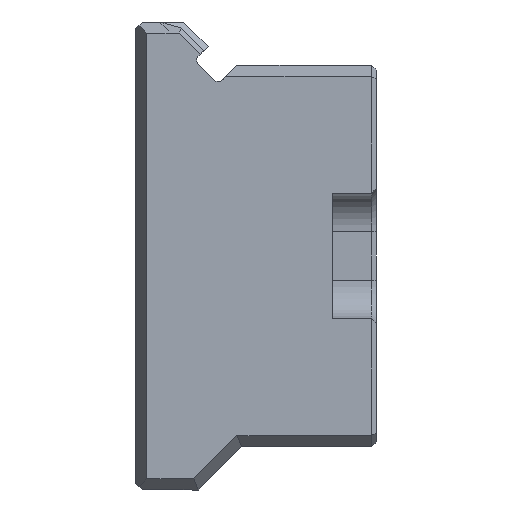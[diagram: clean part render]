
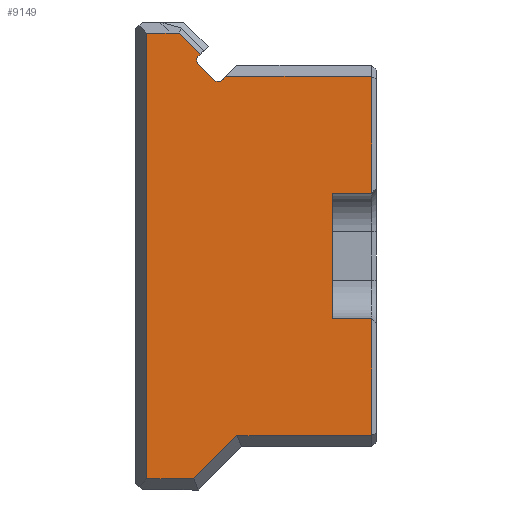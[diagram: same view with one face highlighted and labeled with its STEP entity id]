
A CAD part, left-side view. The second image highlights one B-rep face of the part: STEP entity #9149.
In plain terms, the highlighted planar face has unit normal (-1, 0, 0).
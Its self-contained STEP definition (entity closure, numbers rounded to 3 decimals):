
#27 = CARTESIAN_POINT ( 'NONE',  ( -192., 16.409, 17.891 ) ) ;
#75 = VECTOR ( 'NONE', #664, 1000. ) ;
#410 = DIRECTION ( 'NONE',  ( 1., 0., 0. ) ) ;
#581 = CARTESIAN_POINT ( 'NONE',  ( -192., 15.655, 18.645 ) ) ;
#601 = EDGE_CURVE ( 'NONE', #45520, #14330, #21615, .T. ) ;
#661 = EDGE_CURVE ( 'NONE', #35217, #16375, #41004, .T. ) ;
#664 = DIRECTION ( 'NONE',  ( 0., -1., 0. ) ) ;
#690 = EDGE_CURVE ( 'NONE', #6632, #30408, #7452, .T. ) ;
#1754 = CARTESIAN_POINT ( 'NONE',  ( -192., 4.6, 6.5 ) ) ;
#2011 = CARTESIAN_POINT ( 'NONE',  ( -192., 18.5, -23.145 ) ) ;
#2361 = CARTESIAN_POINT ( 'NONE',  ( -192., 18.291, 20.958 ) ) ;
#2510 = VECTOR ( 'NONE', #12486, 1000. ) ;
#3057 = CARTESIAN_POINT ( 'NONE',  ( -192., 23.845, -23.145 ) ) ;
#3446 = VECTOR ( 'NONE', #19177, 1000. ) ;
#3618 = LINE ( 'NONE', #43819, #28631 ) ;
#3631 = ORIENTED_EDGE ( 'NONE', *, *, #33490, .F. ) ;
#4165 = ORIENTED_EDGE ( 'NONE', *, *, #26988, .T. ) ;
#4366 = CARTESIAN_POINT ( 'NONE',  ( -192., 18.978, -23.145 ) ) ;
#4575 = ORIENTED_EDGE ( 'NONE', *, *, #34504, .T. ) ;
#5037 = LINE ( 'NONE', #12475, #3446 ) ;
#5210 = DIRECTION ( 'NONE',  ( 0., -0.707, 0.707 ) ) ;
#6053 = EDGE_CURVE ( 'NONE', #12574, #20649, #5037, .T. ) ;
#6151 = ORIENTED_EDGE ( 'NONE', *, *, #30387, .T. ) ;
#6517 = DIRECTION ( 'NONE',  ( 0., 0., -1. ) ) ;
#6532 = DIRECTION ( 'NONE',  ( 0., -0.707, 0.707 ) ) ;
#6632 = VERTEX_POINT ( 'NONE', #9774 ) ;
#6772 = VECTOR ( 'NONE', #20800, 1000. ) ;
#7042 = VERTEX_POINT ( 'NONE', #37444 ) ;
#7452 = LINE ( 'NONE', #27, #24479 ) ;
#8318 = FACE_OUTER_BOUND ( 'NONE', #46679, .T. ) ;
#8803 = VERTEX_POINT ( 'NONE', #20125 ) ;
#9149 = ADVANCED_FACE ( 'NONE', ( #8318 ), #37552, .T. ) ;
#9175 = DIRECTION ( 'NONE',  ( 0., -1., 0. ) ) ;
#9774 = CARTESIAN_POINT ( 'NONE',  ( -192., 16.763, 18.244 ) ) ;
#9924 = CARTESIAN_POINT ( 'NONE',  ( -192., 15.5, 18.645 ) ) ;
#10630 = DIRECTION ( 'NONE',  ( 0., 1., 0. ) ) ;
#10722 = VECTOR ( 'NONE', #44580, 1000. ) ;
#10758 = EDGE_CURVE ( 'NONE', #22079, #42747, #47211, .T. ) ;
#10915 = VECTOR ( 'NONE', #29228, 1000. ) ;
#11064 = LINE ( 'NONE', #43863, #10915 ) ;
#12193 = EDGE_CURVE ( 'NONE', #43054, #21481, #28176, .T. ) ;
#12199 = ORIENTED_EDGE ( 'NONE', *, *, #35978, .T. ) ;
#12475 = CARTESIAN_POINT ( 'NONE',  ( -192., 14.5, 19.8 ) ) ;
#12486 = DIRECTION ( 'NONE',  ( 0., 1., 0. ) ) ;
#12574 = VERTEX_POINT ( 'NONE', #581 ) ;
#13660 = CARTESIAN_POINT ( 'NONE',  ( -192., 18.177, 20.366 ) ) ;
#13882 = DIRECTION ( 'NONE',  ( 0., 0., 1. ) ) ;
#14083 = CARTESIAN_POINT ( 'NONE',  ( -192., 20.816, 23.484 ) ) ;
#14276 = DIRECTION ( 'NONE',  ( 0., 0., 1. ) ) ;
#14330 = VERTEX_POINT ( 'NONE', #3057 ) ;
#15758 = ORIENTED_EDGE ( 'NONE', *, *, #10758, .T. ) ;
#16017 = LINE ( 'NONE', #30588, #25479 ) ;
#16084 = VECTOR ( 'NONE', #14276, 1000. ) ;
#16375 = VERTEX_POINT ( 'NONE', #38421 ) ;
#17183 = CARTESIAN_POINT ( 'NONE',  ( -192., 0., -18.645 ) ) ;
#18086 = CARTESIAN_POINT ( 'NONE',  ( -192., 18.531, 20.012 ) ) ;
#18266 = CARTESIAN_POINT ( 'NONE',  ( -192., 16.975, 22.275 ) ) ;
#18278 = CIRCLE ( 'NONE', #34334, 0.5 ) ;
#18362 = ORIENTED_EDGE ( 'NONE', *, *, #6053, .T. ) ;
#18414 = ORIENTED_EDGE ( 'NONE', *, *, #12193, .T. ) ;
#19008 = VECTOR ( 'NONE', #10630, 1000. ) ;
#19177 = DIRECTION ( 'NONE',  ( 0., 0.707, -0.707 ) ) ;
#19591 = DIRECTION ( 'NONE',  ( -1., 0., 0. ) ) ;
#19816 = DIRECTION ( 'NONE',  ( 0., 0., 1. ) ) ;
#20125 = CARTESIAN_POINT ( 'NONE',  ( -192., 0.5, -18.645 ) ) ;
#20649 = VERTEX_POINT ( 'NONE', #34804 ) ;
#20800 = DIRECTION ( 'NONE',  ( 0., 0.707, 0.707 ) ) ;
#21080 = VECTOR ( 'NONE', #6517, 1000. ) ;
#21481 = VERTEX_POINT ( 'NONE', #42268 ) ;
#21615 = LINE ( 'NONE', #42907, #21080 ) ;
#21705 = EDGE_CURVE ( 'NONE', #30408, #22079, #31508, .T. ) ;
#22079 = VERTEX_POINT ( 'NONE', #26942 ) ;
#22826 = VERTEX_POINT ( 'NONE', #25060 ) ;
#23434 = LINE ( 'NONE', #33476, #75 ) ;
#24009 = ORIENTED_EDGE ( 'NONE', *, *, #42614, .T. ) ;
#24376 = ORIENTED_EDGE ( 'NONE', *, *, #32356, .T. ) ;
#24479 = VECTOR ( 'NONE', #30205, 1000. ) ;
#25060 = CARTESIAN_POINT ( 'NONE',  ( -192., 14.478, -18.645 ) ) ;
#25068 = CARTESIAN_POINT ( 'NONE',  ( -192., 0.5, 18.645 ) ) ;
#25479 = VECTOR ( 'NONE', #5210, 1000. ) ;
#25625 = ORIENTED_EDGE ( 'NONE', *, *, #661, .F. ) ;
#26147 = VECTOR ( 'NONE', #9175, 1000. ) ;
#26942 = CARTESIAN_POINT ( 'NONE',  ( -192., 18.531, 20.719 ) ) ;
#26988 = EDGE_CURVE ( 'NONE', #42747, #7042, #27747, .T. ) ;
#27059 = EDGE_CURVE ( 'NONE', #20649, #6632, #18278, .T. ) ;
#27266 = CARTESIAN_POINT ( 'NONE',  ( -192., 0., 0. ) ) ;
#27742 = VERTEX_POINT ( 'NONE', #4366 ) ;
#27747 = LINE ( 'NONE', #14083, #6772 ) ;
#27799 = CARTESIAN_POINT ( 'NONE',  ( -192., 25., 23.145 ) ) ;
#27814 = CARTESIAN_POINT ( 'NONE',  ( -192., 0.5, 6.5 ) ) ;
#28176 = LINE ( 'NONE', #25068, #16084 ) ;
#28631 = VECTOR ( 'NONE', #29422, 1000. ) ;
#29228 = DIRECTION ( 'NONE',  ( 0., -1., 0. ) ) ;
#29422 = DIRECTION ( 'NONE',  ( 0., 0., 1. ) ) ;
#30205 = DIRECTION ( 'NONE',  ( 0., 0.707, 0.707 ) ) ;
#30387 = EDGE_CURVE ( 'NONE', #22826, #8803, #31967, .T. ) ;
#30408 = VERTEX_POINT ( 'NONE', #18086 ) ;
#30588 = CARTESIAN_POINT ( 'NONE',  ( -192., 14.816, -18.984 ) ) ;
#31234 = ORIENTED_EDGE ( 'NONE', *, *, #35477, .T. ) ;
#31254 = ORIENTED_EDGE ( 'NONE', *, *, #601, .T. ) ;
#31444 = ORIENTED_EDGE ( 'NONE', *, *, #27059, .T. ) ;
#31508 = CIRCLE ( 'NONE', #31549, 0.5 ) ;
#31549 = AXIS2_PLACEMENT_3D ( 'NONE', #13660, #45081, #13882 ) ;
#31967 = LINE ( 'NONE', #17183, #32437 ) ;
#32356 = EDGE_CURVE ( 'NONE', #21481, #12574, #35780, .T. ) ;
#32437 = VECTOR ( 'NONE', #46335, 1000. ) ;
#32520 = ORIENTED_EDGE ( 'NONE', *, *, #36573, .T. ) ;
#33219 = CARTESIAN_POINT ( 'NONE',  ( -192., 16.409, 18.598 ) ) ;
#33476 = CARTESIAN_POINT ( 'NONE',  ( -192., 4.6, -6.5 ) ) ;
#33490 = EDGE_CURVE ( 'NONE', #16375, #38594, #23434, .T. ) ;
#34334 = AXIS2_PLACEMENT_3D ( 'NONE', #33219, #410, #39915 ) ;
#34504 = EDGE_CURVE ( 'NONE', #35217, #43054, #11064, .T. ) ;
#34572 = LINE ( 'NONE', #2011, #26147 ) ;
#34804 = CARTESIAN_POINT ( 'NONE',  ( -192., 16.056, 18.244 ) ) ;
#35217 = VERTEX_POINT ( 'NONE', #1754 ) ;
#35477 = EDGE_CURVE ( 'NONE', #7042, #45520, #45970, .T. ) ;
#35780 = LINE ( 'NONE', #9924, #19008 ) ;
#35978 = EDGE_CURVE ( 'NONE', #27742, #22826, #16017, .T. ) ;
#36573 = EDGE_CURVE ( 'NONE', #8803, #38594, #3618, .T. ) ;
#36666 = CARTESIAN_POINT ( 'NONE',  ( -192., 4.6, -6.5 ) ) ;
#36787 = ORIENTED_EDGE ( 'NONE', *, *, #690, .T. ) ;
#37444 = CARTESIAN_POINT ( 'NONE',  ( -192., 20.478, 23.145 ) ) ;
#37552 = PLANE ( 'NONE',  #43858 ) ;
#38421 = CARTESIAN_POINT ( 'NONE',  ( -192., 4.6, -6.5 ) ) ;
#38426 = CARTESIAN_POINT ( 'NONE',  ( -192., 0.5, -6.5 ) ) ;
#38594 = VERTEX_POINT ( 'NONE', #38426 ) ;
#39779 = CARTESIAN_POINT ( 'NONE',  ( -192., 23.845, 23.145 ) ) ;
#39915 = DIRECTION ( 'NONE',  ( 0., 0., 1. ) ) ;
#40996 = VECTOR ( 'NONE', #6532, 1000. ) ;
#41004 = LINE ( 'NONE', #36666, #10722 ) ;
#42268 = CARTESIAN_POINT ( 'NONE',  ( -192., 0.5, 18.645 ) ) ;
#42614 = EDGE_CURVE ( 'NONE', #14330, #27742, #34572, .T. ) ;
#42747 = VERTEX_POINT ( 'NONE', #2361 ) ;
#42907 = CARTESIAN_POINT ( 'NONE',  ( -192., 23.845, -24.3 ) ) ;
#43054 = VERTEX_POINT ( 'NONE', #27814 ) ;
#43819 = CARTESIAN_POINT ( 'NONE',  ( -192., 0.5, -6.5 ) ) ;
#43858 = AXIS2_PLACEMENT_3D ( 'NONE', #27266, #19591, #19816 ) ;
#43863 = CARTESIAN_POINT ( 'NONE',  ( -192., 4.6, 6.5 ) ) ;
#44047 = ORIENTED_EDGE ( 'NONE', *, *, #21705, .T. ) ;
#44580 = DIRECTION ( 'NONE',  ( 0., 0., -1. ) ) ;
#45081 = DIRECTION ( 'NONE',  ( 1., 0., 0. ) ) ;
#45520 = VERTEX_POINT ( 'NONE', #39779 ) ;
#45970 = LINE ( 'NONE', #27799, #2510 ) ;
#46335 = DIRECTION ( 'NONE',  ( 0., -1., 0. ) ) ;
#46679 = EDGE_LOOP ( 'NONE', ( #36787, #44047, #15758, #4165, #31234, #31254, #24009, #12199, #6151, #32520, #3631, #25625, #4575, #18414, #24376, #18362, #31444 ) ) ;
#47211 = LINE ( 'NONE', #18266, #40996 ) ;
